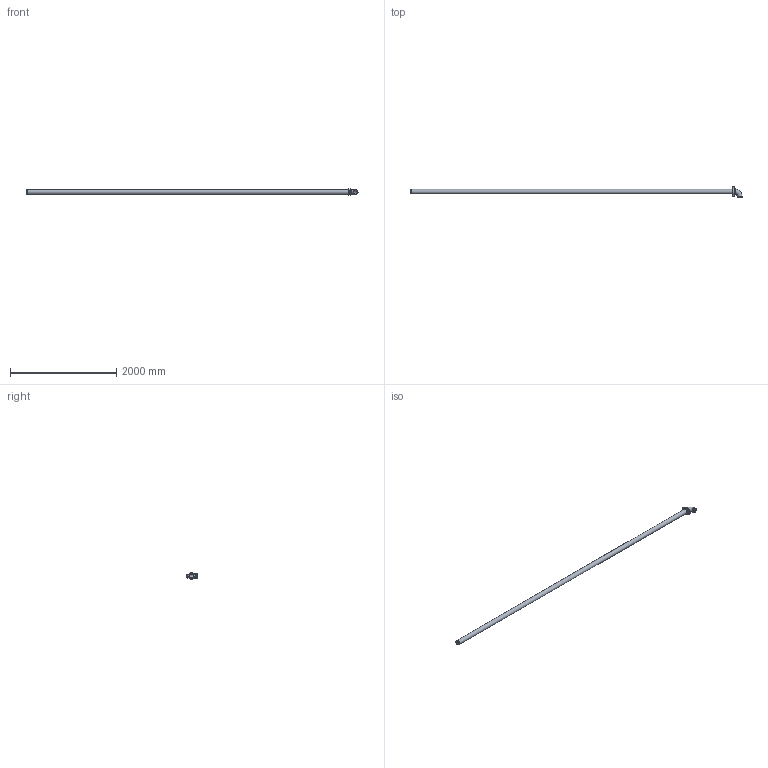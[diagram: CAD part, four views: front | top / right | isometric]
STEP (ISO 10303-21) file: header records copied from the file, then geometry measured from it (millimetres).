
FILE_DESCRIPTION(/* description */ ('VIC LONG RUN FITTING No R20 (OGS)','CAx-IF Rec.Pracs.---Representation and Presentation of Product Manufacturing Information (PMI)---4.0---2014-10-13'),/* implementation_level */ '2;1');
FILE_NAME(/* name */ 'C:\Users\Vjadhav\AppData\Roaming\Autodesk\ApplicationPlugins\Back Up\Victaulic_IPS_Long Run Fittings_No R20 (OGS)\Victaulic_IPS_Long Run Fittings_No R20 (OGS)_3 (80).stp',/* time_stamp */ '2020-10-06T19:45:46+05:00',/* author */ ('Vjadhav'),/* organization */ ('Victaulic'),/* preprocessor_version */ 'ST-DEVELOPER v17.2',/* originating_system */ 'Autodesk Inventor 2019',/* authorisation */ '');
FILE_SCHEMA (('AP242_MANAGED_MODEL_BASED_3D_ENGINEERING_MIM_LF { 1 0 10303 442 1 1 4 }'));
Length unit declared in the file: inch
Products named in the file (4): R20-03.0; 010-03.0; 177N-03.0; Pipe_R10-03.0
Assembly tree (3 placements, depth 2):
  R20-03.0
    010-03.0
    177N-03.0
    Pipe_R10-03.0
Bounding box: 6254.75 x 200.54 x 127 mm (x, y, z)
Volume: 9433127.2 mm3; surface area: 3367834.2 mm2
Topology: 3 solids, 3 shells, 117 faces, 313 edges, 210 vertices
Faces by surface type: plane 68, cylinder 37, torus 6, cone 4, sphere 2
Full cylindrical faces by diameter (mm): 12.7 x2, 22.225 x2, 76.2 x1, 77.927 x3, 84.938 x4, 88.9 x7
Entity records: 4208 total; most frequent: CARTESIAN_POINT 855, DIRECTION 673, ORIENTED_EDGE 634, EDGE_CURVE 317, AXIS2_PLACEMENT_3D 252, VERTEX_POINT 210, LINE 169, VECTOR 169
